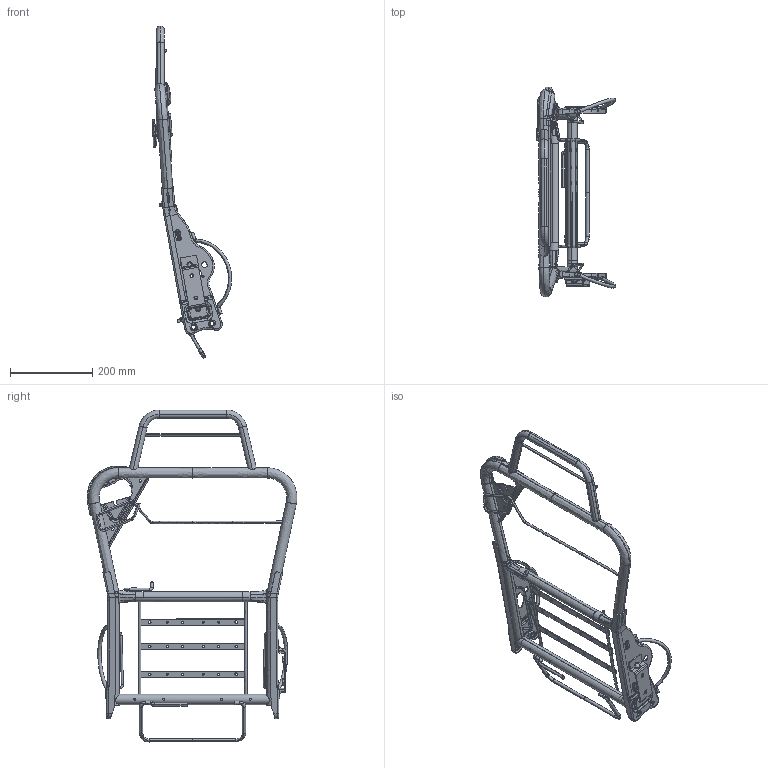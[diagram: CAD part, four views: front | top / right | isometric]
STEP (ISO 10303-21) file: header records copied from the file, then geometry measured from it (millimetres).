
FILE_DESCRIPTION(('CATIA V5 STEP Exchange'),'2;1');
FILE_NAME('C:\Users\Administrator\Desktop\SHT0016641_A.stp','2023-09-22T06:38:19+00:00',('none'),('none'),'CATIA Version 5 Release 20 GA (IN-10)','CATIA V5 STEP AP214','none');
FILE_SCHEMA(('AUTOMOTIVE_DESIGN { 1 0 10303 214 1 1 1 1 }'));
Length unit declared in the file: millimetre
Products named in the file (26): SHT0016641; H5-6802114; SHT0010671; SHT0010632; Q370C08; D04-6802105; H5-6802125; SHT0016642; H5-6802109; H5-6802110; Q370C10; SHT0016644; SHT0016643; H5-6802111; H5-6802112; SHT0012971; SHT0012969; H4B-6805326; SHT0013855; SHT0013856; SHT0013857; H5-6802115; D04-6802106; H4A-6802108; H5-6802108; SHT0014489A
Assembly tree (33 placements, depth 4):
  SHT0016641
    H5-6802114
    SHT0010671
      SHT0010632
      Q370C08  x2
    D04-6802105
    H5-6802125  x2
    SHT0016642
      H5-6802109
        H5-6802110
        Q370C10  x2
      SHT0016644
    SHT0016643
      H5-6802111
        H5-6802112
        Q370C10  x2
      SHT0016644
    SHT0012971
      SHT0012969
      H4B-6805326
    SHT0013855
    SHT0013856
    SHT0013857
    H5-6802115
    D04-6802106  x3
    H4A-6802108
    H5-6802108
    SHT0014489A
Bounding box: 192.64 x 509.39 x 805.41 mm (x, y, z)
Volume: 707587.6 mm3; surface area: 679913.1 mm2
Topology: 27 solids, 27 shells, 1717 faces, 4370 edges, 2714 vertices
Faces by surface type: cylinder 666, plane 377, bspline 314, torus 202, revolution 62, cone 47, extrusion 33, sphere 16
Entity records: 80606 total; most frequent: CARTESIAN_POINT 45220, ORIENTED_EDGE 7706, DIRECTION 4532, EDGE_CURVE 3853, VERTEX_POINT 2390, AXIS2_PLACEMENT_3D 2117, EDGE_LOOP 1603, B_SPLINE_CURVE_WITH_KNOTS 1594
